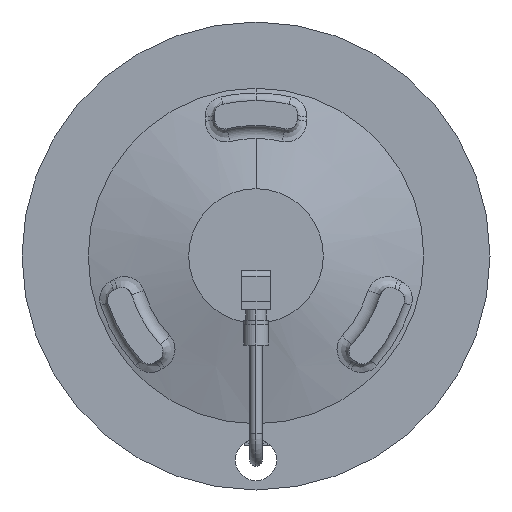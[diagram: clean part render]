
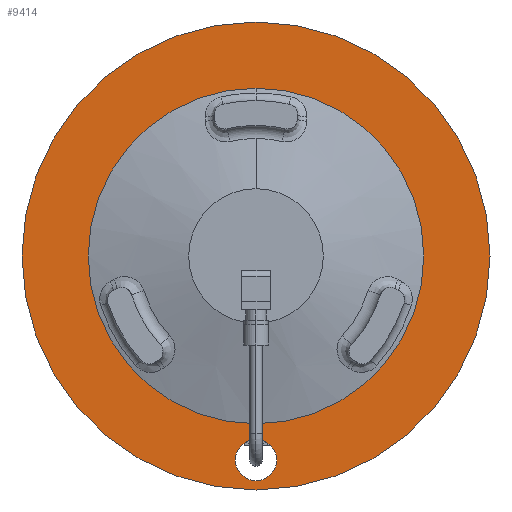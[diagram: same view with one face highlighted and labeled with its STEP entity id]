
A CAD part, front view. The second image highlights one B-rep face of the part: STEP entity #9414.
In plain terms, the highlighted planar face has unit normal (0, -1, 0).
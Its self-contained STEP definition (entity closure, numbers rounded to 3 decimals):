
#120 = DIRECTION ( 'NONE',  ( 0., 1., 0. ) ) ;
#152 = FACE_BOUND ( 'NONE', #10294, .T. ) ;
#422 = ORIENTED_EDGE ( 'NONE', *, *, #7936, .F. ) ;
#458 = DIRECTION ( 'NONE',  ( 0., 0., 1. ) ) ;
#499 = CIRCLE ( 'NONE', #12975, 81.017 ) ;
#799 = AXIS2_PLACEMENT_3D ( 'NONE', #6459, #11786, #866 ) ;
#866 = DIRECTION ( 'NONE',  ( 0., 0., 1. ) ) ;
#922 = ORIENTED_EDGE ( 'NONE', *, *, #12741, .T. ) ;
#1046 = AXIS2_PLACEMENT_3D ( 'NONE', #3736, #10904, #8529 ) ;
#1796 = AXIS2_PLACEMENT_3D ( 'NONE', #12031, #2312, #12910 ) ;
#2312 = DIRECTION ( 'NONE',  ( 0., -1., 0. ) ) ;
#2648 = EDGE_LOOP ( 'NONE', ( #14042, #422 ) ) ;
#2977 = ORIENTED_EDGE ( 'NONE', *, *, #5822, .T. ) ;
#3260 = AXIS2_PLACEMENT_3D ( 'NONE', #14340, #6105, #3415 ) ;
#3415 = DIRECTION ( 'NONE',  ( 0., 0., 1. ) ) ;
#3600 = FACE_OUTER_BOUND ( 'NONE', #2648, .T. ) ;
#3721 = VERTEX_POINT ( 'NONE', #12720 ) ;
#3736 = CARTESIAN_POINT ( 'NONE',  ( 0., -133.8, -98.5 ) ) ;
#4123 = AXIS2_PLACEMENT_3D ( 'NONE', #9782, #120, #12090 ) ;
#4272 = VERTEX_POINT ( 'NONE', #15592 ) ;
#5822 = EDGE_CURVE ( 'NONE', #9732, #6254, #499, .T. ) ;
#6105 = DIRECTION ( 'NONE',  ( 0., 1., 0. ) ) ;
#6254 = VERTEX_POINT ( 'NONE', #15249 ) ;
#6414 = EDGE_LOOP ( 'NONE', ( #2977, #922 ) ) ;
#6459 = CARTESIAN_POINT ( 'NONE',  ( 0., -133.8, 0. ) ) ;
#6926 = CIRCLE ( 'NONE', #4123, 81.017 ) ;
#7625 = CARTESIAN_POINT ( 'NONE',  ( 0., -133.8, 81.017 ) ) ;
#7936 = EDGE_CURVE ( 'NONE', #4272, #15609, #11641, .T. ) ;
#8169 = CARTESIAN_POINT ( 'NONE',  ( 0., -133.8, 113. ) ) ;
#8197 = VERTEX_POINT ( 'NONE', #8256 ) ;
#8256 = CARTESIAN_POINT ( 'NONE',  ( 0., -133.8, -108.5 ) ) ;
#8307 = PLANE ( 'NONE',  #12146 ) ;
#8465 = CARTESIAN_POINT ( 'NONE',  ( -113., -133.8, 0. ) ) ;
#8529 = DIRECTION ( 'NONE',  ( 0., 0., -1. ) ) ;
#9414 = ADVANCED_FACE ( 'NONE', ( #152, #14611, #3600 ), #8307, .T. ) ;
#9732 = VERTEX_POINT ( 'NONE', #7625 ) ;
#9782 = CARTESIAN_POINT ( 'NONE',  ( 0., -133.8, 0. ) ) ;
#10038 = DIRECTION ( 'NONE',  ( 0., 1., 0. ) ) ;
#10294 = EDGE_LOOP ( 'NONE', ( #11480, #11514 ) ) ;
#10904 = DIRECTION ( 'NONE',  ( 0., -1., 0. ) ) ;
#11480 = ORIENTED_EDGE ( 'NONE', *, *, #13385, .F. ) ;
#11514 = ORIENTED_EDGE ( 'NONE', *, *, #13192, .F. ) ;
#11641 = CIRCLE ( 'NONE', #3260, 113. ) ;
#11786 = DIRECTION ( 'NONE',  ( 0., 1., 0. ) ) ;
#11977 = CIRCLE ( 'NONE', #1796, 10. ) ;
#11982 = EDGE_CURVE ( 'NONE', #15609, #4272, #12256, .T. ) ;
#12031 = CARTESIAN_POINT ( 'NONE',  ( 0., -133.8, -98.5 ) ) ;
#12041 = DIRECTION ( 'NONE',  ( 0., 0., -1. ) ) ;
#12090 = DIRECTION ( 'NONE',  ( 0., 0., 1. ) ) ;
#12146 = AXIS2_PLACEMENT_3D ( 'NONE', #8465, #13157, #12041 ) ;
#12256 = CIRCLE ( 'NONE', #799, 113. ) ;
#12271 = CARTESIAN_POINT ( 'NONE',  ( 0., -133.8, 0. ) ) ;
#12720 = CARTESIAN_POINT ( 'NONE',  ( 0., -133.8, -88.5 ) ) ;
#12741 = EDGE_CURVE ( 'NONE', #6254, #9732, #6926, .T. ) ;
#12910 = DIRECTION ( 'NONE',  ( 0., 0., -1. ) ) ;
#12975 = AXIS2_PLACEMENT_3D ( 'NONE', #12271, #10038, #458 ) ;
#13157 = DIRECTION ( 'NONE',  ( 0., -1., 0. ) ) ;
#13192 = EDGE_CURVE ( 'NONE', #8197, #3721, #11977, .T. ) ;
#13385 = EDGE_CURVE ( 'NONE', #3721, #8197, #14811, .T. ) ;
#14042 = ORIENTED_EDGE ( 'NONE', *, *, #11982, .F. ) ;
#14340 = CARTESIAN_POINT ( 'NONE',  ( 0., -133.8, 0. ) ) ;
#14611 = FACE_BOUND ( 'NONE', #6414, .T. ) ;
#14811 = CIRCLE ( 'NONE', #1046, 10. ) ;
#15249 = CARTESIAN_POINT ( 'NONE',  ( 0., -133.8, -81.017 ) ) ;
#15592 = CARTESIAN_POINT ( 'NONE',  ( 0., -133.8, -113. ) ) ;
#15609 = VERTEX_POINT ( 'NONE', #8169 ) ;
